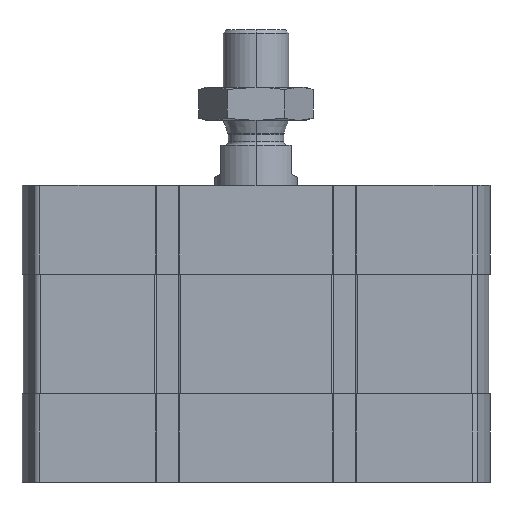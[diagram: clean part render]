
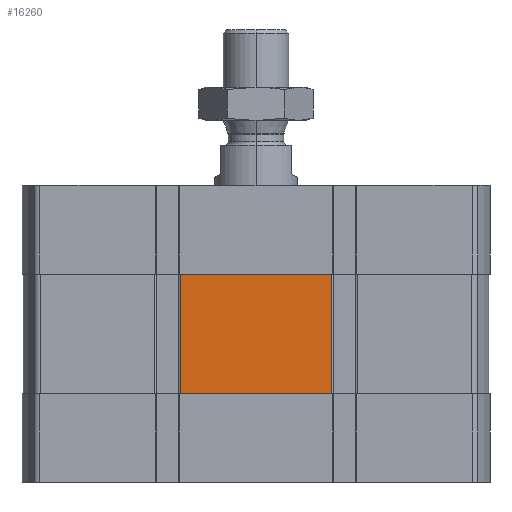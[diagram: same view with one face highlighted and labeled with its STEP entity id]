
A CAD part, left-side view. The second image highlights one B-rep face of the part: STEP entity #16260.
In plain terms, the highlighted planar face has unit normal (-1, 0, 0).
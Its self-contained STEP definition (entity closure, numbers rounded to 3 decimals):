
#257 = ORIENTED_EDGE ( 'NONE', *, *, #3265, .T. ) ;
#2156 = VECTOR ( 'NONE', #4879, 1000. ) ;
#3265 = EDGE_CURVE ( 'NONE', #8117, #7973, #8764, .T. ) ;
#3374 = ORIENTED_EDGE ( 'NONE', *, *, #20236, .T. ) ;
#3605 = CARTESIAN_POINT ( 'NONE',  ( -56.5, -18.345, -50.5 ) ) ;
#3776 = CARTESIAN_POINT ( 'NONE',  ( -56.5, 18.345, -50.5 ) ) ;
#4615 = ORIENTED_EDGE ( 'NONE', *, *, #15377, .F. ) ;
#4879 = DIRECTION ( 'NONE',  ( 0., 0., 1. ) ) ;
#5066 = AXIS2_PLACEMENT_3D ( 'NONE', #15596, #20644, #17628 ) ;
#5319 = DIRECTION ( 'NONE',  ( 0., -1., 0. ) ) ;
#7973 = VERTEX_POINT ( 'NONE', #3605 ) ;
#8117 = VERTEX_POINT ( 'NONE', #13810 ) ;
#8560 = CARTESIAN_POINT ( 'NONE',  ( -56.5, 18.345, -50.5 ) ) ;
#8764 = LINE ( 'NONE', #8560, #20431 ) ;
#10878 = VERTEX_POINT ( 'NONE', #19066 ) ;
#11285 = LINE ( 'NONE', #17934, #13707 ) ;
#12780 = EDGE_LOOP ( 'NONE', ( #4615, #19396, #257, #3374 ) ) ;
#13259 = LINE ( 'NONE', #19790, #2156 ) ;
#13707 = VECTOR ( 'NONE', #17823, 1000. ) ;
#13810 = CARTESIAN_POINT ( 'NONE',  ( -56.5, 18.345, -50.5 ) ) ;
#13940 = CARTESIAN_POINT ( 'NONE',  ( -56.5, 18.345, -21.5 ) ) ;
#14202 = PLANE ( 'NONE',  #5066 ) ;
#15141 = EDGE_CURVE ( 'NONE', #8117, #17009, #18167, .T. ) ;
#15377 = EDGE_CURVE ( 'NONE', #17009, #10878, #11285, .T. ) ;
#15449 = VECTOR ( 'NONE', #19882, 1000. ) ;
#15596 = CARTESIAN_POINT ( 'NONE',  ( -56.5, 18.345, -50.5 ) ) ;
#16260 = ADVANCED_FACE ( 'NONE', ( #19235 ), #14202, .T. ) ;
#17009 = VERTEX_POINT ( 'NONE', #13940 ) ;
#17628 = DIRECTION ( 'NONE',  ( 0., 0., 1. ) ) ;
#17823 = DIRECTION ( 'NONE',  ( 0., -1., 0. ) ) ;
#17934 = CARTESIAN_POINT ( 'NONE',  ( -56.5, 18.345, -21.5 ) ) ;
#18167 = LINE ( 'NONE', #3776, #15449 ) ;
#19066 = CARTESIAN_POINT ( 'NONE',  ( -56.5, -18.345, -21.5 ) ) ;
#19235 = FACE_OUTER_BOUND ( 'NONE', #12780, .T. ) ;
#19396 = ORIENTED_EDGE ( 'NONE', *, *, #15141, .F. ) ;
#19790 = CARTESIAN_POINT ( 'NONE',  ( -56.5, -18.345, -50.5 ) ) ;
#19882 = DIRECTION ( 'NONE',  ( 0., 0., 1. ) ) ;
#20236 = EDGE_CURVE ( 'NONE', #7973, #10878, #13259, .T. ) ;
#20431 = VECTOR ( 'NONE', #5319, 1000. ) ;
#20644 = DIRECTION ( 'NONE',  ( -1., 0., 0. ) ) ;
